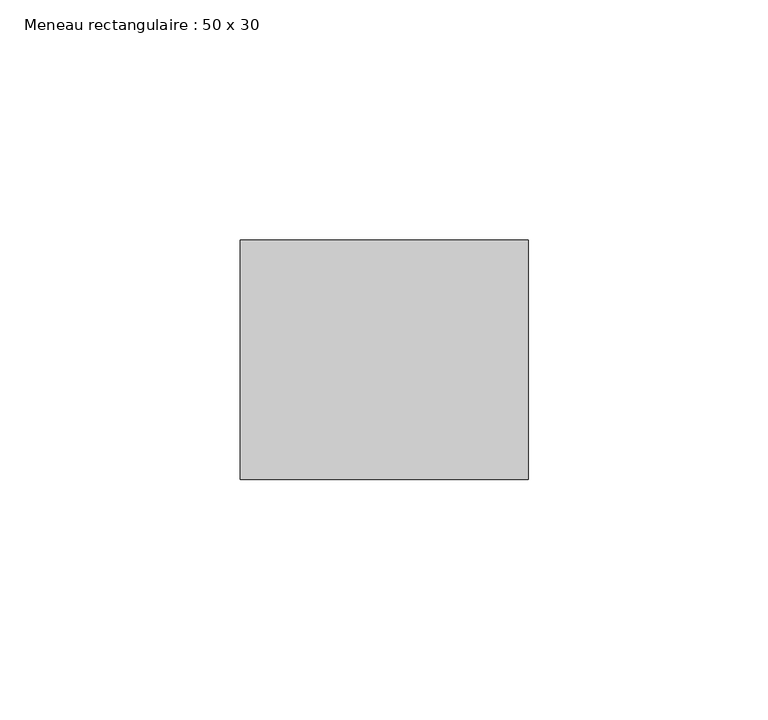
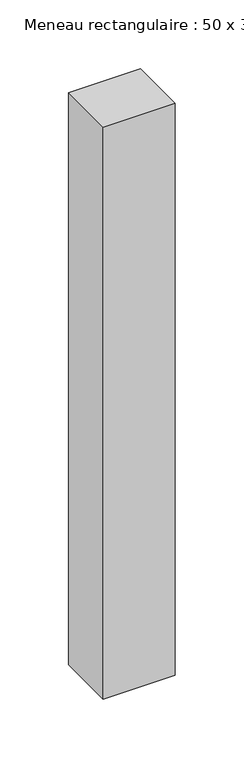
"""IFC4 building model written with IfcOpenShell, lengths in millimetres: member geometry, Meneau rectangulaire : 50 x 30."""

from ifc_helpers import new_model, si_unit, frame, origin, place, context, project, spatial, polyline, outline, extrude, source, transform, mapped, element, save


def meneau_rectangulaire_50_x_30_a4fe5750(model_context):
    return source(origin(), model_context, "Body", "SweptSolid", [
        extrude(outline(polyline([(0.0, 0.0), (0.0, -50.0), (-60.0, -50.0), (-60.0, 0.0), (0.0, 0.0)])), frame((0.0, 0.0, -506.0), z_axis=(0.0, 0.0, 1.0), x_axis=(1.0, 0.0, 0.0)), (0.0, 0.0, 1.0), 506.0),
    ])


if __name__ == "__main__":
    model = new_model("IFC4")
    model_context = context("Model", 3, world=origin())
    ifc_project = project(units=[si_unit("LENGTHUNIT", "METRE", prefix="MILLI")], contexts=[model_context])
    site = spatial("IfcSite", under=ifc_project)
    building = spatial("IfcBuilding", under=site)
    placement = place(None, origin())
    meneau_rectangulaire_50_x_30_shape = meneau_rectangulaire_50_x_30_a4fe5750(model_context)
    element("IfcMember", 1, ObjectType="Meneau rectangulaire : 50 x 30", at=placement, inside=building, context=model_context, shape_type="MappedRepresentation", body=[
        mapped(meneau_rectangulaire_50_x_30_shape, transform((0.0, 0.0, 0.0), x_axis=(1.0, 0.0, 0.0), y_axis=(0.0, 1.0, 0.0), z_axis=(0.0, 0.0, 1.0))),
    ])
    save(model, "model.ifc")
